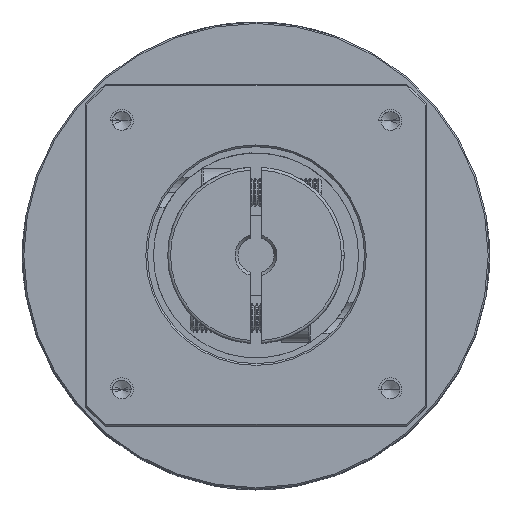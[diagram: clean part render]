
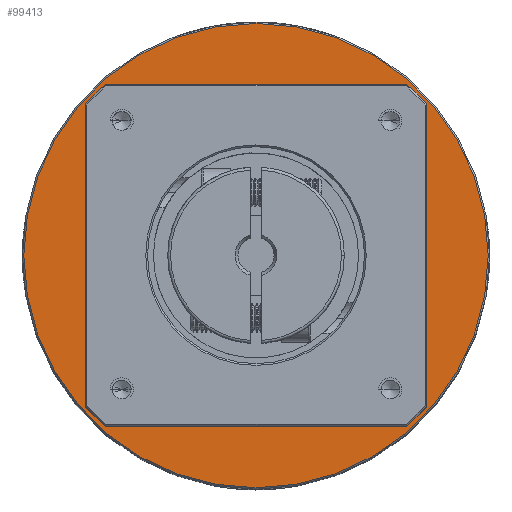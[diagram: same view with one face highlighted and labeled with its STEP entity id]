
A CAD part, top view. The second image highlights one B-rep face of the part: STEP entity #99413.
In plain terms, the highlighted planar face has unit normal (0, 0, 1).
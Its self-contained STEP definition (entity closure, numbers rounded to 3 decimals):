
#2149 = VERTEX_POINT ( 'NONE', #59235 ) ;
#4203 = VERTEX_POINT ( 'NONE', #76755 ) ;
#4520 = EDGE_LOOP ( 'NONE', ( #90837, #117202 ) ) ;
#5653 = ORIENTED_EDGE ( 'NONE', *, *, #83441, .F. ) ;
#9193 = DIRECTION ( 'NONE',  ( 0., 0., -1. ) ) ;
#9527 = DIRECTION ( 'NONE',  ( 0., 0., 1. ) ) ;
#12796 = CARTESIAN_POINT ( 'NONE',  ( 18.167, 7.846, 106.38 ) ) ;
#13365 = CARTESIAN_POINT ( 'NONE',  ( 88.917, 7.846, 106.38 ) ) ;
#18087 = AXIS2_PLACEMENT_3D ( 'NONE', #67438, #9527, #77206 ) ;
#18814 = PLANE ( 'NONE',  #18087 ) ;
#20845 = VERTEX_POINT ( 'NONE', #13365 ) ;
#21510 = EDGE_LOOP ( 'NONE', ( #22373, #5653 ) ) ;
#21593 = DIRECTION ( 'NONE',  ( 0., 0., -1. ) ) ;
#22166 = CIRCLE ( 'NONE', #25460, 40.75 ) ;
#22373 = ORIENTED_EDGE ( 'NONE', *, *, #90702, .F. ) ;
#23627 = AXIS2_PLACEMENT_3D ( 'NONE', #79593, #21593, #89229 ) ;
#25460 = AXIS2_PLACEMENT_3D ( 'NONE', #67079, #9193, #76875 ) ;
#31563 = EDGE_CURVE ( 'NONE', #20845, #2149, #73046, .T. ) ;
#37287 = DIRECTION ( 'NONE',  ( 0., 0., -1. ) ) ;
#37878 = DIRECTION ( 'NONE',  ( 0., 0., -1. ) ) ;
#38650 = EDGE_CURVE ( 'NONE', #2149, #20845, #88146, .T. ) ;
#49106 = FACE_OUTER_BOUND ( 'NONE', #21510, .T. ) ;
#59235 = CARTESIAN_POINT ( 'NONE',  ( 28.917, 7.846, 106.38 ) ) ;
#67079 = CARTESIAN_POINT ( 'NONE',  ( 58.917, 7.846, 106.38 ) ) ;
#67438 = CARTESIAN_POINT ( 'NONE',  ( 58.917, 7.846, 106.38 ) ) ;
#73046 = CIRCLE ( 'NONE', #75066, 30. ) ;
#75066 = AXIS2_PLACEMENT_3D ( 'NONE', #95721, #37878, #105411 ) ;
#76755 = CARTESIAN_POINT ( 'NONE',  ( 99.667, 7.846, 106.38 ) ) ;
#76875 = DIRECTION ( 'NONE',  ( -1., 0., 0. ) ) ;
#77206 = DIRECTION ( 'NONE',  ( 1., 0., 0. ) ) ;
#79593 = CARTESIAN_POINT ( 'NONE',  ( 58.917, 7.846, 106.38 ) ) ;
#83441 = EDGE_CURVE ( 'NONE', #4203, #118499, #109545, .T. ) ;
#83497 = AXIS2_PLACEMENT_3D ( 'NONE', #95118, #37287, #104807 ) ;
#88146 = CIRCLE ( 'NONE', #83497, 30. ) ;
#89229 = DIRECTION ( 'NONE',  ( -1., 0., 0. ) ) ;
#90702 = EDGE_CURVE ( 'NONE', #118499, #4203, #22166, .T. ) ;
#90837 = ORIENTED_EDGE ( 'NONE', *, *, #38650, .T. ) ;
#95118 = CARTESIAN_POINT ( 'NONE',  ( 58.917, 7.846, 106.38 ) ) ;
#95721 = CARTESIAN_POINT ( 'NONE',  ( 58.917, 7.846, 106.38 ) ) ;
#99413 = ADVANCED_FACE ( 'NONE', ( #49106, #123033 ), #18814, .T. ) ;
#104807 = DIRECTION ( 'NONE',  ( -1., 0., 0. ) ) ;
#105411 = DIRECTION ( 'NONE',  ( -1., 0., 0. ) ) ;
#109545 = CIRCLE ( 'NONE', #23627, 40.75 ) ;
#117202 = ORIENTED_EDGE ( 'NONE', *, *, #31563, .T. ) ;
#118499 = VERTEX_POINT ( 'NONE', #12796 ) ;
#123033 = FACE_BOUND ( 'NONE', #4520, .T. ) ;
